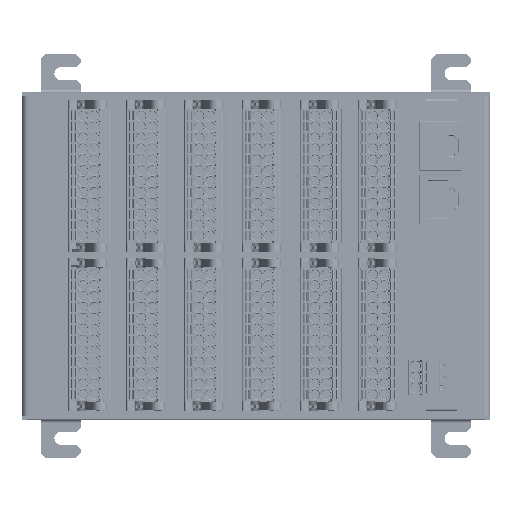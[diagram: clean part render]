
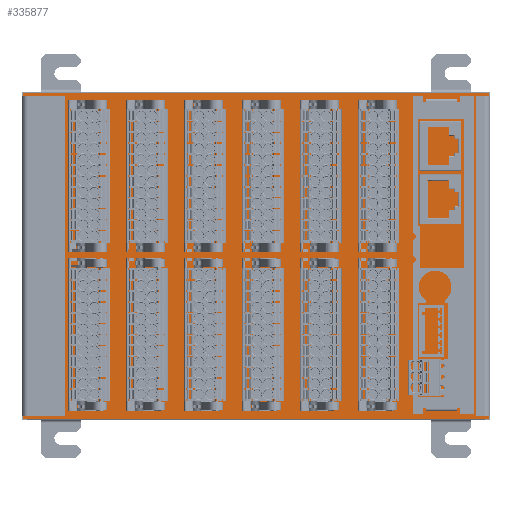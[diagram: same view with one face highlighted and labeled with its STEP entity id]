
A CAD part, front view. The second image highlights one B-rep face of the part: STEP entity #335877.
In plain terms, the highlighted planar face has unit normal (0, -1, 0).
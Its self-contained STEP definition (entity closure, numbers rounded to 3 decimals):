
#870 = ORIENTED_EDGE ( 'NONE', *, *, #438005, .F. ) ;
#1650 = DIRECTION ( 'NONE',  ( 1., 0., 0. ) ) ;
#6954 = ORIENTED_EDGE ( 'NONE', *, *, #233533, .T. ) ;
#8859 = LINE ( 'NONE', #424239, #438370 ) ;
#15527 = EDGE_CURVE ( 'NONE', #148990, #280143, #327749, .T. ) ;
#21584 = VECTOR ( 'NONE', #31748, 1000. ) ;
#26032 = VERTEX_POINT ( 'NONE', #385812 ) ;
#27424 = LINE ( 'NONE', #189646, #201388 ) ;
#29792 = CARTESIAN_POINT ( 'NONE',  ( -0.051, 16.4, -0.2 ) ) ;
#31003 = VERTEX_POINT ( 'NONE', #314809 ) ;
#31748 = DIRECTION ( 'NONE',  ( 0., 0., 1. ) ) ;
#34914 = CARTESIAN_POINT ( 'NONE',  ( 145.449, 16.4, -103.9 ) ) ;
#36245 = VERTEX_POINT ( 'NONE', #34914 ) ;
#38380 = ORIENTED_EDGE ( 'NONE', *, *, #72384, .T. ) ;
#44193 = ORIENTED_EDGE ( 'NONE', *, *, #409775, .F. ) ;
#66728 = CARTESIAN_POINT ( 'NONE',  ( 13.449, 16.4, -1.1 ) ) ;
#72384 = EDGE_CURVE ( 'NONE', #306281, #378785, #241589, .T. ) ;
#73524 = DIRECTION ( 'NONE',  ( 1., 0., 0. ) ) ;
#75710 = CARTESIAN_POINT ( 'NONE',  ( 0.149, 16.4, -1.1 ) ) ;
#76321 = CARTESIAN_POINT ( 'NONE',  ( 149.749, 16.4, -0.2 ) ) ;
#102233 = VECTOR ( 'NONE', #218812, 1000. ) ;
#107134 = CARTESIAN_POINT ( 'NONE',  ( -0.051, 16.4, -104.8 ) ) ;
#108145 = CARTESIAN_POINT ( 'NONE',  ( 1.749, 16.4, -103.9 ) ) ;
#111314 = DIRECTION ( 'NONE',  ( -1., 0., 0. ) ) ;
#112152 = CARTESIAN_POINT ( 'NONE',  ( 1.749, 16.4, -1.1 ) ) ;
#112411 = VERTEX_POINT ( 'NONE', #379067 ) ;
#114050 = LINE ( 'NONE', #170091, #21584 ) ;
#123200 = VECTOR ( 'NONE', #389226, 1000. ) ;
#126372 = LINE ( 'NONE', #330290, #207782 ) ;
#129743 = FACE_OUTER_BOUND ( 'NONE', #449952, .T. ) ;
#131127 = EDGE_CURVE ( 'NONE', #299352, #31003, #244699, .T. ) ;
#134921 = EDGE_LOOP ( 'NONE', ( #248134, #870, #38380, #6954, #331277, #183649 ) ) ;
#135012 = LINE ( 'NONE', #211420, #401390 ) ;
#142864 = VECTOR ( 'NONE', #272888, 1000. ) ;
#146317 = DIRECTION ( 'NONE',  ( 1., 0., 0. ) ) ;
#147771 = EDGE_CURVE ( 'NONE', #212856, #148990, #114050, .T. ) ;
#148990 = VERTEX_POINT ( 'NONE', #76321 ) ;
#149633 = CARTESIAN_POINT ( 'NONE',  ( -0.051, 16.4, -0.2 ) ) ;
#151194 = VERTEX_POINT ( 'NONE', #223845 ) ;
#151691 = EDGE_CURVE ( 'NONE', #257301, #212856, #400369, .T. ) ;
#152450 = VECTOR ( 'NONE', #237955, 1000. ) ;
#157191 = DIRECTION ( 'NONE',  ( 0., 1., 0. ) ) ;
#169780 = ORIENTED_EDGE ( 'NONE', *, *, #147771, .T. ) ;
#170091 = CARTESIAN_POINT ( 'NONE',  ( 149.749, 16.4, -104.8 ) ) ;
#178725 = VERTEX_POINT ( 'NONE', #254343 ) ;
#182931 = CARTESIAN_POINT ( 'NONE',  ( 149.749, 16.4, -104.8 ) ) ;
#183649 = ORIENTED_EDGE ( 'NONE', *, *, #252342, .F. ) ;
#184241 = VERTEX_POINT ( 'NONE', #448664 ) ;
#186179 = EDGE_CURVE ( 'NONE', #437347, #178725, #252333, .T. ) ;
#189646 = CARTESIAN_POINT ( 'NONE',  ( 149.549, 16.4, -1.1 ) ) ;
#200210 = ORIENTED_EDGE ( 'NONE', *, *, #15527, .T. ) ;
#201388 = VECTOR ( 'NONE', #362833, 1000. ) ;
#203117 = CARTESIAN_POINT ( 'NONE',  ( 13.449, 16.4, -103.9 ) ) ;
#206828 = EDGE_CURVE ( 'NONE', #280143, #257301, #294640, .T. ) ;
#207782 = VECTOR ( 'NONE', #365235, 1000. ) ;
#211159 = FACE_BOUND ( 'NONE', #134921, .T. ) ;
#211420 = CARTESIAN_POINT ( 'NONE',  ( 147.949, 16.4, -1.1 ) ) ;
#212808 = ORIENTED_EDGE ( 'NONE', *, *, #206828, .T. ) ;
#212856 = VERTEX_POINT ( 'NONE', #182931 ) ;
#215417 = LINE ( 'NONE', #108145, #400318 ) ;
#218812 = DIRECTION ( 'NONE',  ( -1., 0., 0. ) ) ;
#223845 = CARTESIAN_POINT ( 'NONE',  ( 147.949, 16.4, -1.1 ) ) ;
#230755 = VECTOR ( 'NONE', #347044, 1000. ) ;
#233533 = EDGE_CURVE ( 'NONE', #378785, #299352, #126372, .T. ) ;
#235264 = ORIENTED_EDGE ( 'NONE', *, *, #342592, .F. ) ;
#235277 = VECTOR ( 'NONE', #73524, 1000. ) ;
#235931 = VECTOR ( 'NONE', #348195, 1000. ) ;
#237955 = DIRECTION ( 'NONE',  ( -1., 0., 0. ) ) ;
#241589 = LINE ( 'NONE', #413861, #230755 ) ;
#244699 = LINE ( 'NONE', #203117, #152450 ) ;
#246385 = DIRECTION ( 'NONE',  ( -1., 0., 0. ) ) ;
#248134 = ORIENTED_EDGE ( 'NONE', *, *, #186179, .F. ) ;
#249513 = CARTESIAN_POINT ( 'NONE',  ( 1.749, 16.4, -1.1 ) ) ;
#252333 = LINE ( 'NONE', #440737, #426252 ) ;
#252342 = EDGE_CURVE ( 'NONE', #178725, #31003, #215417, .T. ) ;
#254343 = CARTESIAN_POINT ( 'NONE',  ( 0.149, 16.4, -103.9 ) ) ;
#256212 = ORIENTED_EDGE ( 'NONE', *, *, #353854, .F. ) ;
#256339 = ORIENTED_EDGE ( 'NONE', *, *, #356821, .F. ) ;
#257301 = VERTEX_POINT ( 'NONE', #334507 ) ;
#266784 = VERTEX_POINT ( 'NONE', #402158 ) ;
#272888 = DIRECTION ( 'NONE',  ( -1., 0., 0. ) ) ;
#280143 = VERTEX_POINT ( 'NONE', #149633 ) ;
#281658 = CARTESIAN_POINT ( 'NONE',  ( 147.949, 16.4, -103.9 ) ) ;
#282987 = EDGE_LOOP ( 'NONE', ( #256339, #44193, #404913, #235264, #256212, #284986 ) ) ;
#284986 = ORIENTED_EDGE ( 'NONE', *, *, #305482, .F. ) ;
#294640 = LINE ( 'NONE', #107134, #327315 ) ;
#299352 = VERTEX_POINT ( 'NONE', #415813 ) ;
#305482 = EDGE_CURVE ( 'NONE', #266784, #151194, #135012, .T. ) ;
#306281 = VERTEX_POINT ( 'NONE', #112152 ) ;
#310842 = AXIS2_PLACEMENT_3D ( 'NONE', #365273, #157191, #400156 ) ;
#311766 = VECTOR ( 'NONE', #111314, 1000. ) ;
#314809 = CARTESIAN_POINT ( 'NONE',  ( 1.749, 16.4, -103.9 ) ) ;
#327315 = VECTOR ( 'NONE', #417026, 1000. ) ;
#327749 = LINE ( 'NONE', #29792, #142864 ) ;
#328503 = LINE ( 'NONE', #383077, #235931 ) ;
#330290 = CARTESIAN_POINT ( 'NONE',  ( 13.449, 16.4, -1.1 ) ) ;
#331277 = ORIENTED_EDGE ( 'NONE', *, *, #131127, .T. ) ;
#334507 = CARTESIAN_POINT ( 'NONE',  ( -0.051, 16.4, -104.8 ) ) ;
#335877 = ADVANCED_FACE ( 'NONE', ( #211159, #396108, #129743 ), #433623, .F. ) ;
#335981 = DIRECTION ( 'NONE',  ( 0., 0., -1. ) ) ;
#342592 = EDGE_CURVE ( 'NONE', #112411, #36245, #328503, .T. ) ;
#347044 = DIRECTION ( 'NONE',  ( 1., 0., 0. ) ) ;
#348195 = DIRECTION ( 'NONE',  ( 0., 0., -1. ) ) ;
#353854 = EDGE_CURVE ( 'NONE', #151194, #112411, #379448, .T. ) ;
#354310 = CARTESIAN_POINT ( 'NONE',  ( -0.051, 16.4, -104.8 ) ) ;
#356821 = EDGE_CURVE ( 'NONE', #26032, #266784, #27424, .T. ) ;
#362833 = DIRECTION ( 'NONE',  ( 0., 0., 1. ) ) ;
#365235 = DIRECTION ( 'NONE',  ( 0., 0., -1. ) ) ;
#365273 = CARTESIAN_POINT ( 'NONE',  ( 0., 16.4, 0. ) ) ;
#378785 = VERTEX_POINT ( 'NONE', #66728 ) ;
#379067 = CARTESIAN_POINT ( 'NONE',  ( 145.449, 16.4, -1.1 ) ) ;
#379448 = LINE ( 'NONE', #392085, #102233 ) ;
#383077 = CARTESIAN_POINT ( 'NONE',  ( 145.449, 16.4, -1.1 ) ) ;
#385812 = CARTESIAN_POINT ( 'NONE',  ( 149.549, 16.4, -103.9 ) ) ;
#389226 = DIRECTION ( 'NONE',  ( 1., 0., 0. ) ) ;
#392085 = CARTESIAN_POINT ( 'NONE',  ( 148.949, 16.4, -1.1 ) ) ;
#396108 = FACE_BOUND ( 'NONE', #282987, .T. ) ;
#400156 = DIRECTION ( 'NONE',  ( -1., 0., 0. ) ) ;
#400318 = VECTOR ( 'NONE', #1650, 1000. ) ;
#400369 = LINE ( 'NONE', #354310, #123200 ) ;
#401390 = VECTOR ( 'NONE', #246385, 1000. ) ;
#402158 = CARTESIAN_POINT ( 'NONE',  ( 149.549, 16.4, -1.1 ) ) ;
#404156 = LINE ( 'NONE', #249513, #311766 ) ;
#404913 = ORIENTED_EDGE ( 'NONE', *, *, #450439, .F. ) ;
#409775 = EDGE_CURVE ( 'NONE', #184241, #26032, #420189, .T. ) ;
#413861 = CARTESIAN_POINT ( 'NONE',  ( 0.749, 16.4, -1.1 ) ) ;
#415813 = CARTESIAN_POINT ( 'NONE',  ( 13.449, 16.4, -103.9 ) ) ;
#417026 = DIRECTION ( 'NONE',  ( 0., 0., -1. ) ) ;
#420189 = LINE ( 'NONE', #281658, #235277 ) ;
#424239 = CARTESIAN_POINT ( 'NONE',  ( 145.449, 16.4, -103.9 ) ) ;
#426252 = VECTOR ( 'NONE', #335981, 1000. ) ;
#433623 = PLANE ( 'NONE',  #310842 ) ;
#437347 = VERTEX_POINT ( 'NONE', #75710 ) ;
#438005 = EDGE_CURVE ( 'NONE', #306281, #437347, #404156, .T. ) ;
#438370 = VECTOR ( 'NONE', #146317, 1000. ) ;
#440737 = CARTESIAN_POINT ( 'NONE',  ( 0.149, 16.4, -103.9 ) ) ;
#448664 = CARTESIAN_POINT ( 'NONE',  ( 147.949, 16.4, -103.9 ) ) ;
#449952 = EDGE_LOOP ( 'NONE', ( #212808, #450540, #169780, #200210 ) ) ;
#450439 = EDGE_CURVE ( 'NONE', #36245, #184241, #8859, .T. ) ;
#450540 = ORIENTED_EDGE ( 'NONE', *, *, #151691, .T. ) ;
